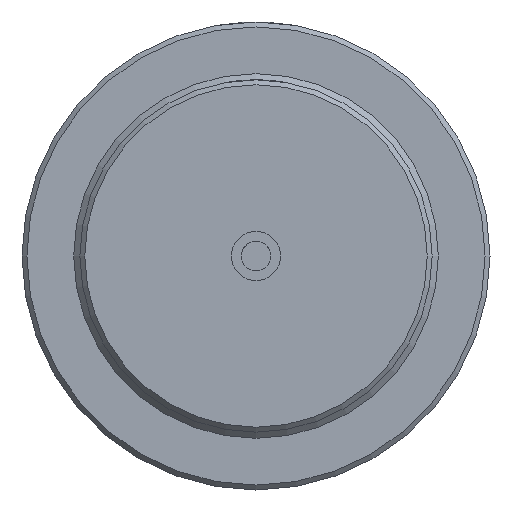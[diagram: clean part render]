
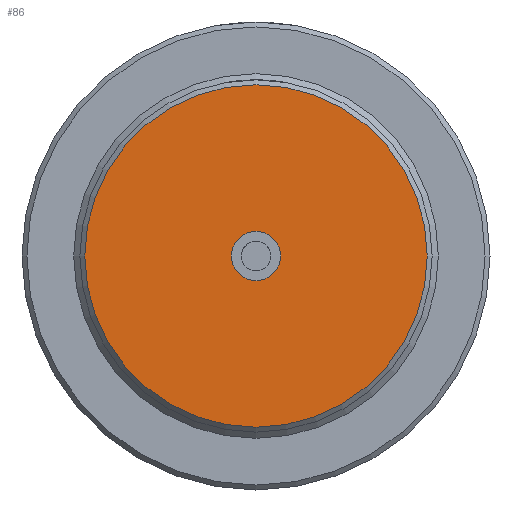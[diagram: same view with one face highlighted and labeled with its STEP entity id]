
A CAD part, left-side view. The second image highlights one B-rep face of the part: STEP entity #86.
In plain terms, the highlighted planar face has unit normal (-1, 0, 0).
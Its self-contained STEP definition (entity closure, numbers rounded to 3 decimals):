
#86 = ADVANCED_FACE( '', ( #142, #143 ), #144, .T. );
#142 = FACE_OUTER_BOUND( '', #240, .T. );
#143 = FACE_BOUND( '', #241, .T. );
#144 = PLANE( '', #242 );
#240 = EDGE_LOOP( '', ( #360 ) );
#241 = EDGE_LOOP( '', ( #361 ) );
#242 = AXIS2_PLACEMENT_3D( '', #362, #363, #364 );
#360 = ORIENTED_EDGE( '', *, *, #483, .T. );
#361 = ORIENTED_EDGE( '', *, *, #484, .F. );
#362 = CARTESIAN_POINT( '', ( 0., 0., 10. ) );
#363 = DIRECTION( '', ( -1., 0., 0. ) );
#364 = DIRECTION( '', ( 0., 0., 1. ) );
#483 = EDGE_CURVE( '', #531, #531, #532, .T. );
#484 = EDGE_CURVE( '', #533, #533, #534, .T. );
#531 = VERTEX_POINT( '', #760 );
#532 = CIRCLE( '', #761, 69.5 );
#533 = VERTEX_POINT( '', #762 );
#534 = CIRCLE( '', #763, 10. );
#760 = CARTESIAN_POINT( '', ( 0., 0., 69.5 ) );
#761 = AXIS2_PLACEMENT_3D( '', #834, #835, #836 );
#762 = CARTESIAN_POINT( '', ( 0., 0., 10. ) );
#763 = AXIS2_PLACEMENT_3D( '', #837, #838, #839 );
#834 = CARTESIAN_POINT( '', ( 0., 0., 0. ) );
#835 = DIRECTION( '', ( -1., 0., 0. ) );
#836 = DIRECTION( '', ( 0., 0., 1. ) );
#837 = CARTESIAN_POINT( '', ( 0., 0., 0. ) );
#838 = DIRECTION( '', ( -1., 0., 0. ) );
#839 = DIRECTION( '', ( 0., 0., 1. ) );
